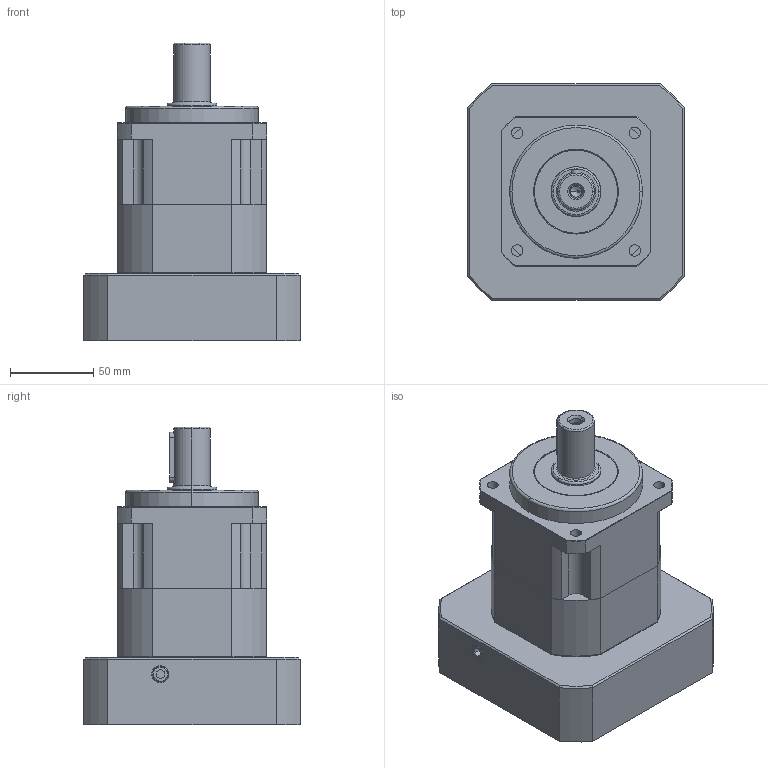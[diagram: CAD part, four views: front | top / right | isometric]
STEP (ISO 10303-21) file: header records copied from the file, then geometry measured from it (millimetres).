
FILE_DESCRIPTION (( 'STEP AP203' ), '1' );
FILE_NAME ('SB90-1-110M8-2.STEP', '2011-07-11T09:01:33', ( '1' ), ( '' ), 'SwSTEP 2.0', 'SolidWorks 2011', '' );
FILE_SCHEMA (( 'CONFIG_CONTROL_DESIGN' ));
Length unit declared in the file: millimetre
Products named in the file (1): SB90-1-110M8-2
Bounding box: 130.01 x 130.01 x 179 mm (x, y, z)
Volume: 852819.7 mm3; surface area: 188013.5 mm2
Topology: 16 solids, 16 shells, 652 faces, 1578 edges, 983 vertices
Faces by surface type: plane 281, cylinder 219, cone 112, torus 29, bspline 11
Entity records: 20338 total; most frequent: CARTESIAN_POINT 4825, DIRECTION 3347, ORIENTED_EDGE 3104, EDGE_CURVE 1552, AXIS2_PLACEMENT_3D 1263, VERTEX_POINT 983, VECTOR 821, LINE 821
